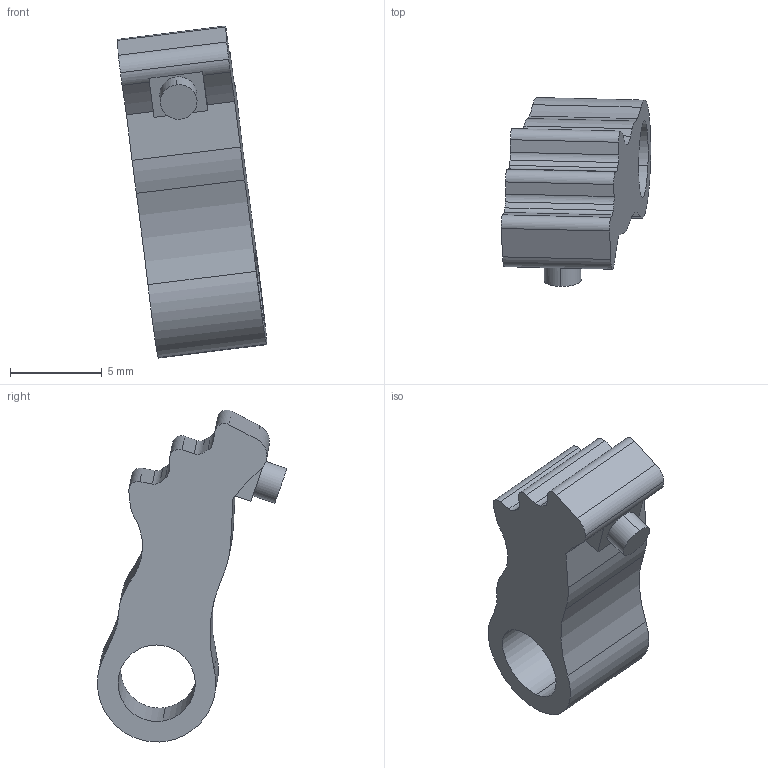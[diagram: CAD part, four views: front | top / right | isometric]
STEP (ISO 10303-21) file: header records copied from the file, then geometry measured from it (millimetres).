
FILE_DESCRIPTION(('CATIA V5 STEP Exchange'),'2;1');
FILE_NAME('G:\够快云库\系统集成开发部\1.部门成员\孙国\3D-stp打印件\20220215\KHWJG-003-0924.stp','2022-02-15T03:50:50+00:00',('none'),('none'),'CATIA Version 5 Release 20 GA (IN-10)','CATIA V5 STEP AP214','none');
FILE_SCHEMA(('AUTOMOTIVE_DESIGN { 1 0 10303 214 1 1 1 1 }'));
Length unit declared in the file: millimetre
Products named in the file (1): KHWJG-003
Bounding box: 8.14 x 10.31 x 18.08 mm (x, y, z)
Volume: 440.2 mm3; surface area: 508.5 mm2
Topology: 1 solids, 1 shells, 43 faces, 122 edges, 82 vertices
Faces by surface type: cylinder 28, plane 14, bspline 1
Entity records: 1515 total; most frequent: CARTESIAN_POINT 466, ORIENTED_EDGE 244, DIRECTION 157, EDGE_CURVE 122, VERTEX_POINT 82, AXIS2_PLACEMENT_3D 63, VECTOR 54, LINE 54
